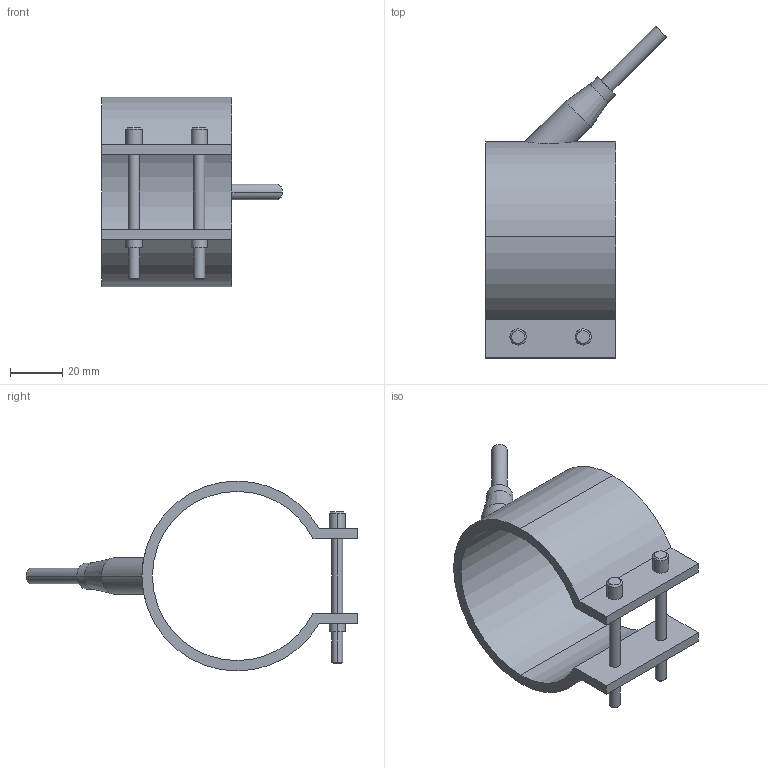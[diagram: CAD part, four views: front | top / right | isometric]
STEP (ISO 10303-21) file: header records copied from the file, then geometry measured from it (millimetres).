
FILE_DESCRIPTION(('CATIA V5 STEP Exchange'),'2;1');
FILE_NAME('C:\Users\Utente\Desktop\IO LAVORO\3D X SITO CF\X SITO\PLASTICA\RF1\29065050.stp','2021-03-27T09:46:35+00:00',('none'),('none'),'CATIA Version 5 Release 20 GA (IN-10)','CATIA V5 STEP AP203','none');
FILE_SCHEMA(('CONFIG_CONTROL_DESIGN'));
Length unit declared in the file: millimetre
Products named in the file (1): 29065050
Bounding box: 69.55 x 127.55 x 73 mm (x, y, z)
Volume: 49584.1 mm3; surface area: 26691.4 mm2
Topology: 1 solids, 1 shells, 54 faces, 126 edges, 82 vertices
Faces by surface type: cylinder 28, plane 16, cone 10
Entity records: 1764 total; most frequent: CARTESIAN_POINT 521, ORIENTED_EDGE 252, DIRECTION 211, EDGE_CURVE 126, AXIS2_PLACEMENT_3D 104, VERTEX_POINT 82, EDGE_LOOP 66, VECTOR 56
